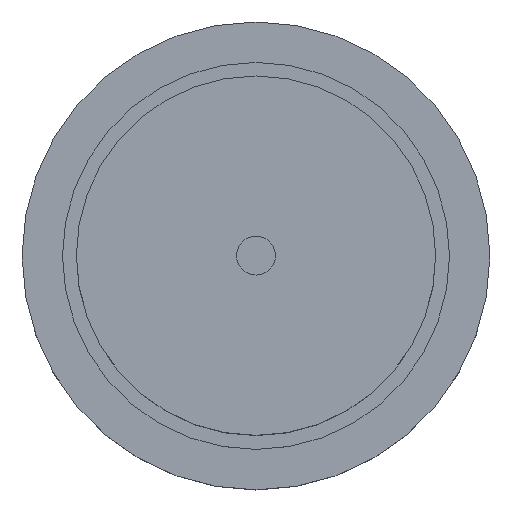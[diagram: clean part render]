
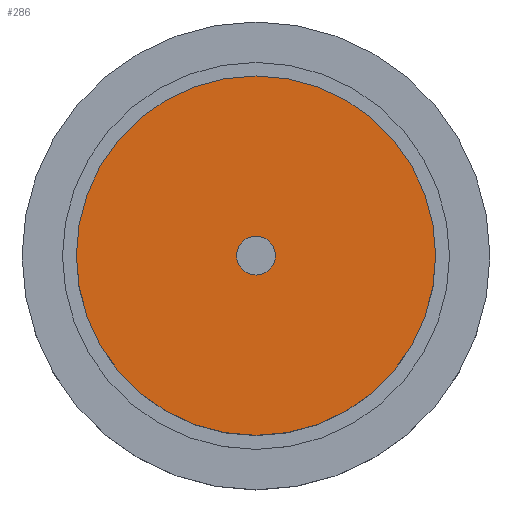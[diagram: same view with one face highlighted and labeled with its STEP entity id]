
A CAD part, top view. The second image highlights one B-rep face of the part: STEP entity #286.
In plain terms, the highlighted planar face has unit normal (0, 0, 1).
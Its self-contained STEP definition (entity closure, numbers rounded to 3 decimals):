
#15=FACE_BOUND('',#78,.T.);
#33=PLANE('',#341);
#54=FACE_OUTER_BOUND('',#77,.T.);
#77=EDGE_LOOP('',(#236));
#78=EDGE_LOOP('',(#237));
#116=CIRCLE('',#308,2.16);
#131=CIRCLE('',#339,19.965);
#138=VERTEX_POINT('',#458);
#153=VERTEX_POINT('',#512);
#161=EDGE_CURVE('',#138,#138,#116,.T.);
#183=EDGE_CURVE('',#153,#153,#131,.T.);
#236=ORIENTED_EDGE('',*,*,#183,.T.);
#237=ORIENTED_EDGE('',*,*,#161,.T.);
#286=ADVANCED_FACE('',(#54,#15),#33,.T.);
#308=AXIS2_PLACEMENT_3D('',#460,#358,#359);
#339=AXIS2_PLACEMENT_3D('',#513,#427,#428);
#341=AXIS2_PLACEMENT_3D('',#517,#432,#433);
#358=DIRECTION('center_axis',(0.,0.,-1.));
#359=DIRECTION('ref_axis',(1.,0.,0.));
#427=DIRECTION('center_axis',(0.,0.,1.));
#428=DIRECTION('ref_axis',(1.,0.,0.));
#432=DIRECTION('center_axis',(0.,0.,1.));
#433=DIRECTION('ref_axis',(1.,0.,0.));
#458=CARTESIAN_POINT('',(-2.16,0.,44.88));
#460=CARTESIAN_POINT('Origin',(0.,0.,44.88));
#512=CARTESIAN_POINT('',(-19.965,0.,44.88));
#513=CARTESIAN_POINT('Origin',(0.,0.,44.88));
#517=CARTESIAN_POINT('Origin',(0.,0.,44.88));
